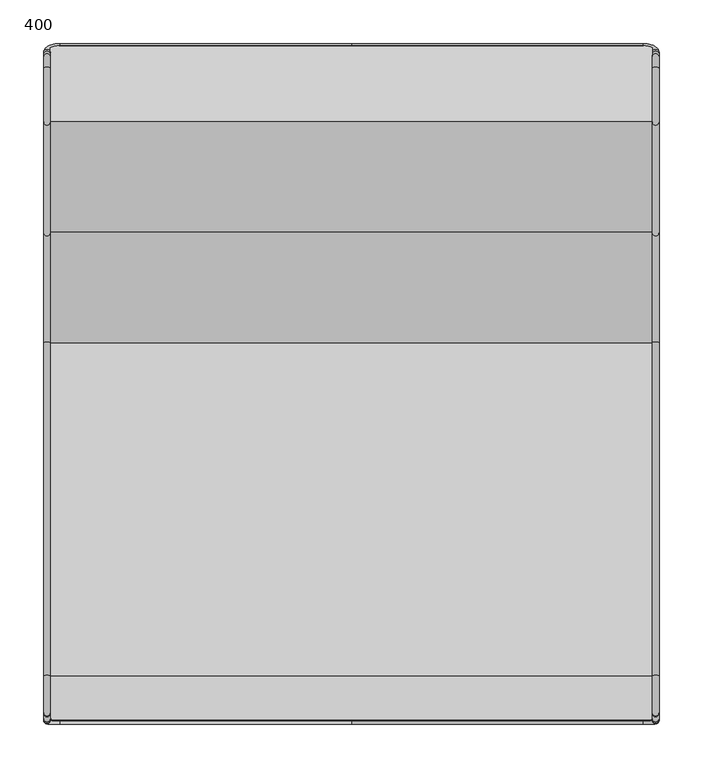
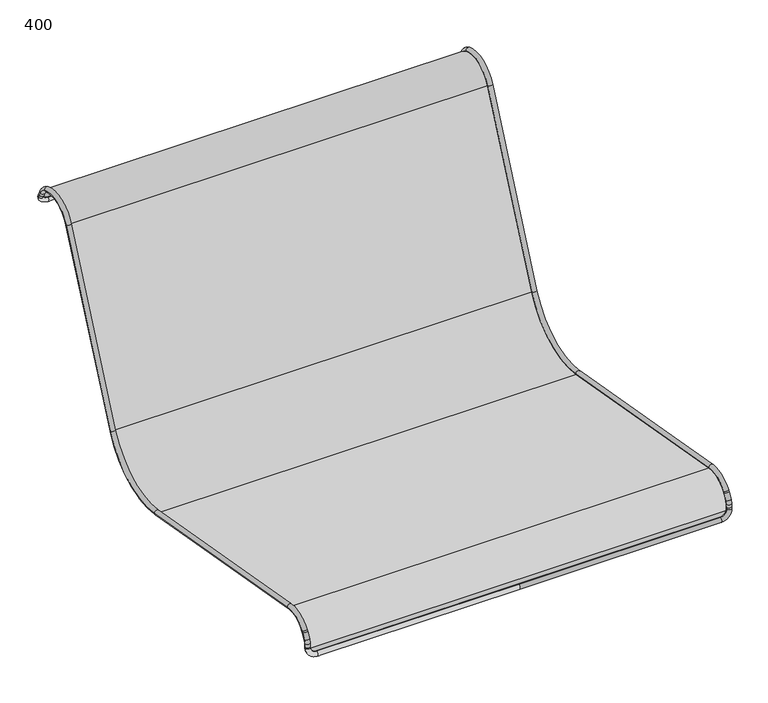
"""IFC4 building model written with IfcOpenShell, lengths in millimetres: furniture geometry, Vestre - Munch - 5166 : 400."""

from ifc_helpers import new_model, si_unit, point, frame, frame_2d, origin, place, context, project, spatial, polyline, circle_curve, ellipse_curve, trimmed, segment, composite_curve, outline, extrude, source, transform, mapped, element, save
from ifc_brep_helpers import cylinder_surface, revolved_surface, advanced_brep


def furniture_400_10252353(model_context):
    return source(origin(), model_context, "Body", "SolidModel", [
        advanced_brep(
        [(-353.440108, 373.7937013, 682.4780585), (-353.440108, 371.646043, 686.9933175), (-345.440108, 371.646043, 686.9933175), (-345.440108, 373.7937013, 682.4780585), (-345.440108, 296.4612266, 676.0749425), (-345.440108, 357.7572354, 700.2806419), (-353.440108, 357.7572354, 700.2806419), (-353.440108, 296.4612266, 676.0749425), (-353.440108, 169.6234197, 391.1925638), (-345.440108, 169.6234197, 391.1925638), (-353.440108, 43.6034187, 324.1865407), (-345.440108, 43.6034187, 324.1865407), (-353.440108, -338.739978, 391.6039975), (-345.440108, -338.739978, 391.6039975), (-353.440108, -381.5432629, 374.8006881), (-345.440108, -381.5432629, 374.8006881), (-345.440108, -382.9815742, 372.5487627), (-353.440108, -382.9815742, 372.5487627), (-353.440108, -388.067645, 362.9832548), (-345.440108, -388.067645, 362.9832548), (0.0, 384.102461, 660.8048152), (-334.440108, 384.102461, 660.8048152), (-334.440108, 380.6662078, 668.0292297), (0.0, 380.6662078, 668.0292297), (-345.440108, 375.9413596, 677.9627995), (-353.440108, 375.9413596, 677.9627995), (-345.440108, -389.6972432, 357.1071135), (-353.440108, -389.6972432, 357.1071135), (-353.440108, -389.9613935, 352.0668255), (-345.440108, -389.9613935, 352.0668255), (0.0, -391.0683935, 330.9440069), (-334.440108, -391.0683935, 330.9440069), (-334.440108, -390.6497059, 338.9330432), (0.0, -390.6497059, 338.9330432), (-345.440108, -390.0740104, 349.9179681), (-353.440108, -390.0740104, 349.9179681), (334.440108, -390.6497059, 338.9330432), (334.440108, -391.0683935, 330.9440069), (353.440108, -390.0740104, 349.9179681), (345.440108, -390.0740104, 349.9179681), (345.440108, -389.9613935, 352.0668255), (353.440108, -389.9613935, 352.0668255), (345.440108, 373.7937013, 682.4780585), (345.440108, 371.646043, 686.9933175), (353.440108, 371.646043, 686.9933175), (353.440108, 373.7937013, 682.4780585), (353.440108, 296.4612266, 676.0749425), (353.440108, 357.7572354, 700.2806419), (345.440108, 357.7572354, 700.2806419), (345.440108, 296.4612266, 676.0749425), (345.440108, 169.6234197, 391.1925638), (353.440108, 169.6234197, 391.1925638), (345.440108, 43.6034187, 324.1865407), (353.440108, 43.6034187, 324.1865407), (345.440108, -338.739978, 391.6039975), (353.440108, -338.739978, 391.6039975), (345.440108, -381.5432629, 374.8006881), (353.440108, -381.5432629, 374.8006881), (353.440108, -382.9815742, 372.5487627), (345.440108, -382.9815742, 372.5487627), (345.440108, -388.067645, 362.9832548), (353.440108, -388.067645, 362.9832548), (353.440108, -389.6972432, 357.1071135), (345.440108, -389.6972432, 357.1071135), (334.440108, 380.6662078, 668.0292297), (334.440108, 384.102461, 660.8048152), (353.440108, 375.9413596, 677.9627995), (345.440108, 375.9413596, 677.9627995)],
        [
            (0, 1),
            (1, 2, circle_curve(frame((-349.440108, 371.646043, 686.9933175), z_axis=(0.0, 0.4295316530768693, -0.9030518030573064), x_axis=(1.0, 0.0, 0.0)), 4.0)),
            (2, 3),
            (3, 0, circle_curve(frame((-349.440108, 373.7937013, 682.4780585), z_axis=(0.0, -0.4295316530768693, 0.9030518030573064), x_axis=(1.0, 0.0, 0.0)), 4.0)),
            (0, 3, circle_curve(frame((-349.440108, 373.7937013, 682.4780585), z_axis=(0.0, -0.4295316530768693, 0.9030518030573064), x_axis=(1.0, 0.0, 0.0)), 4.0)),
            (2, 1, circle_curve(frame((-349.440108, 371.646043, 686.9933175), z_axis=(0.0, 0.4295316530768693, -0.9030518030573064), x_axis=(1.0, 0.0, 0.0)), 4.0)),
            (4, 5, circle_curve(frame((-345.440108, 339.4462618, 656.9367718), z_axis=(-1.0, 0.0, 0.0), x_axis=(0.0, 0.38915652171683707, 0.9211716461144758)), 47.0529789)),
            (5, 6, circle_curve(frame((-349.440108, 357.7572354, 700.2806419), z_axis=(0.0, -0.9211716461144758, 0.38915652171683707), x_axis=(1.0, 0.0, 0.0)), 4.0)),
            (6, 7, circle_curve(frame((-353.440108, 339.4462618, 656.9367718), z_axis=(1.0, 0.0, 0.0), x_axis=(0.0, 0.38915652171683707, 0.9211716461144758)), 47.0529789)),
            (7, 4, circle_curve(frame((-349.440108, 296.4612266, 676.0749425), z_axis=(0.0, 0.406736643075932, 0.9135454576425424), x_axis=(1.0, 0.0, 0.0)), 4.0)),
            (4, 7, circle_curve(frame((-349.440108, 296.4612266, 676.0749425), z_axis=(0.0, 0.406736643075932, 0.9135454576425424), x_axis=(1.0, 0.0, 0.0)), 4.0)),
            (6, 5, circle_curve(frame((-349.440108, 357.7572354, 700.2806419), z_axis=(0.0, -0.9211716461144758, 0.38915652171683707), x_axis=(1.0, 0.0, 0.0)), 4.0)),
            (7, 8),
            (8, 9, circle_curve(frame((-349.440108, 169.6234197, 391.1925638), z_axis=(0.0, 0.4067366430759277, 0.9135454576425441), x_axis=(1.0, 0.0, 0.0)), 4.0)),
            (9, 4),
            (9, 8, circle_curve(frame((-349.440108, 169.6234197, 391.1925638), z_axis=(0.0, 0.4067366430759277, 0.9135454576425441), x_axis=(1.0, 0.0, 0.0)), 4.0)),
            (8, 10, circle_curve(frame((-353.440108, 63.7315199, 438.3386751), z_axis=(-1.0, 0.0, 0.0), x_axis=(0.0, 0.9135454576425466, -0.40673664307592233)), 115.9131151)),
            (10, 11, circle_curve(frame((-349.440108, 43.6034187, 324.1865407), z_axis=(0.0, 0.9848077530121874, -0.17364817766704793), x_axis=(1.0, 0.0, 0.0)), 4.0)),
            (11, 9, circle_curve(frame((-345.440108, 63.7315199, 438.3386751), z_axis=(1.0, 0.0, 0.0), x_axis=(0.0, 0.9135454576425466, -0.40673664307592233)), 115.9131151)),
            (11, 10, circle_curve(frame((-349.440108, 43.6034187, 324.1865407), z_axis=(0.0, 0.9848077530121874, -0.17364817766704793), x_axis=(1.0, 0.0, 0.0)), 4.0)),
            (10, 12),
            (12, 13, circle_curve(frame((-349.440108, -338.739978, 391.6039975), z_axis=(0.0, 0.9848077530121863, -0.17364817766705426), x_axis=(1.0, 0.0, 0.0)), 4.0)),
            (13, 11),
            (13, 12, circle_curve(frame((-349.440108, -338.739978, 391.6039975), z_axis=(0.0, 0.9848077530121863, -0.17364817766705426), x_axis=(1.0, 0.0, 0.0)), 4.0)),
            (12, 14, circle_curve(frame((-353.440108, -346.3955852, 348.1868914), z_axis=(1.0, 0.0, 0.0), x_axis=(0.0, 0.17364817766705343, 0.9848077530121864)), 44.0868849)),
            (14, 15, circle_curve(frame((-349.440108, -381.5432629, 374.8006881), z_axis=(0.0, 0.6036669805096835, 0.7972365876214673), x_axis=(1.0, 0.0, 0.0)), 4.0)),
            (15, 13, circle_curve(frame((-345.440108, -346.3955852, 348.1868914), z_axis=(-1.0, 0.0, 0.0), x_axis=(0.0, 0.17364817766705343, 0.9848077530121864)), 44.0868849)),
            (15, 14, circle_curve(frame((-349.440108, -381.5432629, 374.8006881), z_axis=(0.0, 0.6036669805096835, 0.7972365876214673), x_axis=(1.0, 0.0, 0.0)), 4.0)),
            (16, 17, circle_curve(frame((-349.440108, -382.9815742, 372.5487627), z_axis=(0.0, -0.46947156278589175, -0.8829475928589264), x_axis=(1.0, 0.0, 0.0)), 4.0)),
            (17, 18),
            (18, 19, circle_curve(frame((-349.440108, -388.067645, 362.9832548), z_axis=(0.0, 0.46947156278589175, 0.8829475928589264), x_axis=(1.0, 0.0, 0.0)), 4.0)),
            (19, 16),
            (17, 16, circle_curve(frame((-349.440108, -382.9815742, 372.5487627), z_axis=(0.0, -0.46947156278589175, -0.8829475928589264), x_axis=(1.0, 0.0, 0.0)), 4.0)),
            (19, 18, circle_curve(frame((-349.440108, -388.067645, 362.9832548), z_axis=(0.0, 0.46947156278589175, 0.8829475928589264), x_axis=(1.0, 0.0, 0.0)), 4.0)),
            (1, 6, circle_curve(frame((-353.440108, 347.239684, 675.3845663), z_axis=(1.0, 0.0, 0.0), x_axis=(0.0, 0.9030518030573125, 0.4295316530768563)), 27.0265327)),
            (5, 2, circle_curve(frame((-345.440108, 347.239684, 675.3845663), z_axis=(-1.0, 0.0, 0.0), x_axis=(0.0, 0.9030518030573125, 0.4295316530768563)), 27.0265327)),
            (20, 21),
            (21, 22, circle_curve(frame((-334.440108, 382.3843344, 664.4170225), z_axis=(1.0, 0.0, 0.0), x_axis=(0.0, -0.4295316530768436, 0.9030518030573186)), 4.0)),
            (22, 23),
            (23, 20, circle_curve(frame((0.0, 382.3843344, 664.4170225), z_axis=(-1.0, 0.0, 0.0), x_axis=(0.0, -0.4295316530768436, 0.9030518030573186)), 4.0)),
            (20, 23, circle_curve(frame((0.0, 382.3843344, 664.4170225), z_axis=(-1.0, 0.0, 0.0), x_axis=(0.0, -0.4295316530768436, 0.9030518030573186)), 4.0)),
            (22, 21, circle_curve(frame((-334.440108, 382.3843344, 664.4170225), z_axis=(1.0, 0.0, 0.0), x_axis=(0.0, -0.4295316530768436, 0.9030518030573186)), 4.0)),
            (24, 25, circle_curve(frame((-349.440108, 375.9413596, 677.9627995), z_axis=(0.0, -0.4295316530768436, 0.9030518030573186), x_axis=(1.0, 0.0, 0.0)), 4.0)),
            (25, 0),
            (3, 24),
            (25, 24, circle_curve(frame((-349.440108, 375.9413596, 677.9627995), z_axis=(0.0, -0.4295316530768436, 0.9030518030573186), x_axis=(1.0, 0.0, 0.0)), 4.0)),
            (21, 25, circle_curve(frame((-334.440108, 375.9413596, 677.9627995), z_axis=(0.0, 0.9030518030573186, 0.4295316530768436), x_axis=(0.0, 0.4295316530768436, -0.9030518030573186)), 19.0)),
            (24, 22, circle_curve(frame((-334.440108, 375.9413596, 677.9627995), z_axis=(0.0, -0.9030518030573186, -0.4295316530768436), x_axis=(0.0, 0.4295316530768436, -0.9030518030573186)), 11.0)),
            (14, 17, circle_curve(frame((-353.440108, -368.164883, 364.6705883), z_axis=(1.0, 0.0, 0.0), x_axis=(0.0, -0.7972365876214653, 0.6036669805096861)), 16.7809407)),
            (16, 15, circle_curve(frame((-345.440108, -368.164883, 364.6705883), z_axis=(-1.0, 0.0, 0.0), x_axis=(0.0, -0.7972365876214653, 0.6036669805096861)), 16.7809407)),
            (26, 27, circle_curve(frame((-349.440108, -389.6972432, 357.1071135), z_axis=(0.0, -0.05233595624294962, -0.9986295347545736), x_axis=(1.0, 0.0, 0.0)), 4.0)),
            (27, 28),
            (28, 29, circle_curve(frame((-349.440108, -389.9613935, 352.0668255), z_axis=(0.0, 0.05233595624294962, 0.9986295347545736), x_axis=(1.0, 0.0, 0.0)), 4.0)),
            (29, 26),
            (27, 26, circle_curve(frame((-349.440108, -389.6972432, 357.1071135), z_axis=(0.0, -0.05233595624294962, -0.9986295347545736), x_axis=(1.0, 0.0, 0.0)), 4.0)),
            (29, 28, circle_curve(frame((-349.440108, -389.9613935, 352.0668255), z_axis=(0.0, 0.05233595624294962, 0.9986295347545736), x_axis=(1.0, 0.0, 0.0)), 4.0)),
            (18, 27, circle_curve(frame((-353.440108, -375.6296639, 356.3698629), z_axis=(1.0, 0.0, 0.0), x_axis=(0.0, -0.8829475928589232, 0.46947156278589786)), 14.0868849)),
            (26, 19, circle_curve(frame((-345.440108, -375.6296639, 356.3698629), z_axis=(-1.0, 0.0, 0.0), x_axis=(0.0, -0.8829475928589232, 0.46947156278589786)), 14.0868849)),
            (30, 31),
            (31, 32, circle_curve(frame((-334.440108, -390.8590497, 334.938525), z_axis=(1.0, 0.0, 0.0), x_axis=(0.0, 0.052335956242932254, 0.9986295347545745)), 4.0)),
            (32, 33),
            (33, 30, circle_curve(frame((0.0, -390.8590497, 334.938525), z_axis=(-1.0, 0.0, 0.0), x_axis=(0.0, 0.052335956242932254, 0.9986295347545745)), 4.0)),
            (30, 33, circle_curve(frame((0.0, -390.8590497, 334.938525), z_axis=(-1.0, 0.0, 0.0), x_axis=(0.0, 0.052335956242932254, 0.9986295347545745)), 4.0)),
            (32, 31, circle_curve(frame((-334.440108, -390.8590497, 334.938525), z_axis=(1.0, 0.0, 0.0), x_axis=(0.0, 0.052335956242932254, 0.9986295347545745)), 4.0)),
            (34, 35, circle_curve(frame((-349.440108, -390.0740104, 349.9179681), z_axis=(0.0, 0.052335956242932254, 0.9986295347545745), x_axis=(1.0, 0.0, 0.0)), 4.0)),
            (35, 28),
            (29, 34),
            (35, 34, circle_curve(frame((-349.440108, -390.0740104, 349.9179681), z_axis=(0.0, 0.052335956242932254, 0.9986295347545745), x_axis=(1.0, 0.0, 0.0)), 4.0)),
            (31, 35, circle_curve(frame((-334.440108, -390.0740104, 349.9179681), z_axis=(0.0, 0.9986295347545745, -0.052335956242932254), x_axis=(0.0, -0.052335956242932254, -0.9986295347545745)), 19.0)),
            (34, 32, circle_curve(frame((-334.440108, -390.0740104, 349.9179681), z_axis=(0.0, -0.9986295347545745, 0.052335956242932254), x_axis=(0.0, -0.052335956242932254, -0.9986295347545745)), 11.0)),
            (33, 36),
            (36, 37, circle_curve(frame((334.440108, -390.8590497, 334.938525), z_axis=(-1.0, 0.0, 0.0), x_axis=(0.0, 0.052335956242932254, 0.9986295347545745)), 4.0)),
            (37, 30),
            (37, 36, circle_curve(frame((334.440108, -390.8590497, 334.938525), z_axis=(-1.0, 0.0, 0.0), x_axis=(0.0, 0.052335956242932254, 0.9986295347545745)), 4.0)),
            (38, 39, circle_curve(frame((349.440108, -390.0740104, 349.9179681), z_axis=(0.0, 0.052335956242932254, 0.9986295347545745), x_axis=(-1.0, 0.0, 0.0)), 4.0)),
            (39, 40),
            (40, 41, circle_curve(frame((349.440108, -389.9613935, 352.0668255), z_axis=(0.0, -0.052335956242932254, -0.9986295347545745), x_axis=(-1.0, 0.0, 0.0)), 4.0)),
            (41, 38),
            (39, 38, circle_curve(frame((349.440108, -390.0740104, 349.9179681), z_axis=(0.0, 0.052335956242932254, 0.9986295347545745), x_axis=(-1.0, 0.0, 0.0)), 4.0)),
            (41, 40, circle_curve(frame((349.440108, -389.9613935, 352.0668255), z_axis=(0.0, -0.052335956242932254, -0.9986295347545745), x_axis=(-1.0, 0.0, 0.0)), 4.0)),
            (36, 39, circle_curve(frame((334.440108, -390.0740104, 349.9179681), z_axis=(0.0, -0.9986295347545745, 0.052335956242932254), x_axis=(0.0, -0.052335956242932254, -0.9986295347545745)), 11.0)),
            (38, 37, circle_curve(frame((334.440108, -390.0740104, 349.9179681), z_axis=(0.0, 0.9986295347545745, -0.052335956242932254), x_axis=(0.0, -0.052335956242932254, -0.9986295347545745)), 19.0)),
            (42, 43),
            (43, 44, circle_curve(frame((349.440108, 371.646043, 686.9933175), z_axis=(0.0, 0.4295316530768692, -0.9030518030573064), x_axis=(-1.0, 0.0, 0.0)), 4.0)),
            (44, 45),
            (45, 42, circle_curve(frame((349.440108, 373.7937013, 682.4780585), z_axis=(0.0, -0.4295316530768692, 0.9030518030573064), x_axis=(-1.0, 0.0, 0.0)), 4.0)),
            (42, 45, circle_curve(frame((349.440108, 373.7937013, 682.4780585), z_axis=(0.0, -0.4295316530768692, 0.9030518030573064), x_axis=(-1.0, 0.0, 0.0)), 4.0)),
            (44, 43, circle_curve(frame((349.440108, 371.646043, 686.9933175), z_axis=(0.0, 0.4295316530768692, -0.9030518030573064), x_axis=(-1.0, 0.0, 0.0)), 4.0)),
            (46, 47, circle_curve(frame((353.440108, 339.4462618, 656.9367718), z_axis=(-1.0, 0.0, 0.0), x_axis=(0.0, 0.38915652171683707, 0.9211716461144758)), 47.0529789)),
            (47, 48, circle_curve(frame((349.440108, 357.7572354, 700.2806419), z_axis=(0.0, -0.9211716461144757, 0.3891565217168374), x_axis=(-1.0, 0.0, 0.0)), 4.0)),
            (48, 49, circle_curve(frame((345.440108, 339.4462618, 656.9367718), z_axis=(1.0, 0.0, 0.0), x_axis=(0.0, 0.38915652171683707, 0.9211716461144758)), 47.0529789)),
            (49, 46, circle_curve(frame((349.440108, 296.4612266, 676.0749425), z_axis=(0.0, 0.40673664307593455, 0.9135454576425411), x_axis=(-1.0, 0.0, 0.0)), 4.0)),
            (46, 49, circle_curve(frame((349.440108, 296.4612266, 676.0749425), z_axis=(0.0, 0.40673664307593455, 0.9135454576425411), x_axis=(-1.0, 0.0, 0.0)), 4.0)),
            (48, 47, circle_curve(frame((349.440108, 357.7572354, 700.2806419), z_axis=(0.0, -0.9211716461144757, 0.3891565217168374), x_axis=(-1.0, 0.0, 0.0)), 4.0)),
            (49, 50),
            (50, 51, circle_curve(frame((349.440108, 169.6234197, 391.1925638), z_axis=(0.0, 0.40673664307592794, 0.913545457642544), x_axis=(-1.0, 0.0, 0.0)), 4.0)),
            (51, 46),
            (51, 50, circle_curve(frame((349.440108, 169.6234197, 391.1925638), z_axis=(0.0, 0.40673664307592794, 0.913545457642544), x_axis=(-1.0, 0.0, 0.0)), 4.0)),
            (50, 52, circle_curve(frame((345.440108, 63.7315199, 438.3386751), z_axis=(-1.0, 0.0, 0.0), x_axis=(0.0, 0.9135454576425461, -0.40673664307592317)), 115.9131151)),
            (52, 53, circle_curve(frame((349.440108, 43.6034187, 324.1865407), z_axis=(0.0, 0.9848077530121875, -0.17364817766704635), x_axis=(-1.0, 0.0, 0.0)), 4.0)),
            (53, 51, circle_curve(frame((353.440108, 63.7315199, 438.3386751), z_axis=(1.0, 0.0, 0.0), x_axis=(0.0, 0.9135454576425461, -0.40673664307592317)), 115.9131151)),
            (53, 52, circle_curve(frame((349.440108, 43.6034187, 324.1865407), z_axis=(0.0, 0.9848077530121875, -0.17364817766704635), x_axis=(-1.0, 0.0, 0.0)), 4.0)),
            (52, 54),
            (54, 55, circle_curve(frame((349.440108, -338.739978, 391.6039975), z_axis=(0.0, 0.9848077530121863, -0.17364817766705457), x_axis=(-1.0, 0.0, 0.0)), 4.0)),
            (55, 53),
            (55, 54, circle_curve(frame((349.440108, -338.739978, 391.6039975), z_axis=(0.0, 0.9848077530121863, -0.17364817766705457), x_axis=(-1.0, 0.0, 0.0)), 4.0)),
            (54, 56, circle_curve(frame((345.440108, -346.3955852, 348.1868914), z_axis=(1.0, 0.0, 0.0), x_axis=(0.0, 0.17364817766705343, 0.9848077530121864)), 44.0868849)),
            (56, 57, circle_curve(frame((349.440108, -381.5432629, 374.8006881), z_axis=(0.0, 0.603666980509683, 0.7972365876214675), x_axis=(-1.0, 0.0, 0.0)), 4.0)),
            (57, 55, circle_curve(frame((353.440108, -346.3955852, 348.1868914), z_axis=(-1.0, 0.0, 0.0), x_axis=(0.0, 0.17364817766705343, 0.9848077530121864)), 44.0868849)),
            (57, 56, circle_curve(frame((349.440108, -381.5432629, 374.8006881), z_axis=(0.0, 0.603666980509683, 0.7972365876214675), x_axis=(-1.0, 0.0, 0.0)), 4.0)),
            (58, 59, circle_curve(frame((349.440108, -382.9815742, 372.5487627), z_axis=(0.0, -0.46947156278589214, -0.8829475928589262), x_axis=(-1.0, 0.0, 0.0)), 4.0)),
            (59, 60),
            (60, 61, circle_curve(frame((349.440108, -388.067645, 362.9832548), z_axis=(0.0, 0.46947156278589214, 0.8829475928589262), x_axis=(-1.0, 0.0, 0.0)), 4.0)),
            (61, 58),
            (59, 58, circle_curve(frame((349.440108, -382.9815742, 372.5487627), z_axis=(0.0, -0.46947156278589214, -0.8829475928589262), x_axis=(-1.0, 0.0, 0.0)), 4.0)),
            (61, 60, circle_curve(frame((349.440108, -388.067645, 362.9832548), z_axis=(0.0, 0.46947156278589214, 0.8829475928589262), x_axis=(-1.0, 0.0, 0.0)), 4.0)),
            (43, 48, circle_curve(frame((345.440108, 347.239684, 675.3845663), z_axis=(1.0, 0.0, 0.0), x_axis=(0.0, 0.9030518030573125, 0.4295316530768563)), 27.0265327)),
            (47, 44, circle_curve(frame((353.440108, 347.239684, 675.3845663), z_axis=(-1.0, 0.0, 0.0), x_axis=(0.0, 0.9030518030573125, 0.4295316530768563)), 27.0265327)),
            (56, 59, circle_curve(frame((345.440108, -368.164883, 364.6705883), z_axis=(1.0, 0.0, 0.0), x_axis=(0.0, -0.7972365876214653, 0.6036669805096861)), 16.7809407)),
            (58, 57, circle_curve(frame((353.440108, -368.164883, 364.6705883), z_axis=(-1.0, 0.0, 0.0), x_axis=(0.0, -0.7972365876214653, 0.6036669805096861)), 16.7809407)),
            (62, 63, circle_curve(frame((349.440108, -389.6972432, 357.1071135), z_axis=(0.0, -0.052335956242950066, -0.9986295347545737), x_axis=(-1.0, 0.0, 0.0)), 4.0)),
            (63, 40),
            (41, 62),
            (63, 62, circle_curve(frame((349.440108, -389.6972432, 357.1071135), z_axis=(0.0, -0.052335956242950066, -0.9986295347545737), x_axis=(-1.0, 0.0, 0.0)), 4.0)),
            (60, 63, circle_curve(frame((345.440108, -375.6296639, 356.3698629), z_axis=(1.0, 0.0, 0.0), x_axis=(0.0, -0.8829475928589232, 0.46947156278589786)), 14.0868849)),
            (62, 61, circle_curve(frame((353.440108, -375.6296639, 356.3698629), z_axis=(-1.0, 0.0, 0.0), x_axis=(0.0, -0.8829475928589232, 0.46947156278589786)), 14.0868849)),
            (23, 64),
            (64, 65, circle_curve(frame((334.440108, 382.3843344, 664.4170225), z_axis=(-1.0, 0.0, 0.0), x_axis=(0.0, -0.4295316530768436, 0.9030518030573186)), 4.0)),
            (65, 20),
            (65, 64, circle_curve(frame((334.440108, 382.3843344, 664.4170225), z_axis=(-1.0, 0.0, 0.0), x_axis=(0.0, -0.4295316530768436, 0.9030518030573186)), 4.0)),
            (66, 67, circle_curve(frame((349.440108, 375.9413596, 677.9627995), z_axis=(0.0, -0.4295316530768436, 0.9030518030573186), x_axis=(-1.0, 0.0, 0.0)), 4.0)),
            (67, 42),
            (45, 66),
            (67, 66, circle_curve(frame((349.440108, 375.9413596, 677.9627995), z_axis=(0.0, -0.4295316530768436, 0.9030518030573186), x_axis=(-1.0, 0.0, 0.0)), 4.0)),
            (64, 67, circle_curve(frame((334.440108, 375.9413596, 677.9627995), z_axis=(0.0, -0.9030518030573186, -0.4295316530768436), x_axis=(0.0, 0.4295316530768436, -0.9030518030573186)), 11.0)),
            (66, 65, circle_curve(frame((334.440108, 375.9413596, 677.9627995), z_axis=(0.0, 0.9030518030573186, 0.4295316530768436), x_axis=(0.0, 0.4295316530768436, -0.9030518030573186)), 19.0)),
        ],
        [
            cylinder_surface(frame((-349.440108, 373.7937013, 682.4780585), z_axis=(0.0, 0.4295316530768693, -0.9030518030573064), x_axis=(1.0, 0.0, 0.0)), 4.0),
            revolved_surface(trimmed(ellipse_curve(frame((-349.440108, 357.7572354, 700.2806419), z_axis=(0.0, 0.9211716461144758, -0.38915652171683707), x_axis=(1.0, 0.0, 0.0)), 4.0, 4.0), [point((-353.440108, 357.7572354, 700.2806419))], [point((-345.440108, 357.7572354, 700.2806419))], True, "CARTESIAN"), (0.0, 339.4462618, 656.9367718), (1.0, 0.0, 0.0)),
            revolved_surface(trimmed(ellipse_curve(frame((-349.440108, 357.7572354, 700.2806419), z_axis=(0.0, 0.9211716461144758, -0.38915652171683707), x_axis=(1.0, 0.0, 0.0)), 4.0, 4.0), [point((-345.440108, 357.7572354, 700.2806419))], [point((-353.440108, 357.7572354, 700.2806419))], True, "CARTESIAN"), (0.0, 339.4462618, 656.9367718), (1.0, 0.0, 0.0)),
            cylinder_surface(frame((-349.440108, 296.4612266, 676.0749425), z_axis=(0.0, 0.4067366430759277, 0.9135454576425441), x_axis=(1.0, 0.0, 0.0)), 4.0),
            revolved_surface(trimmed(ellipse_curve(frame((-349.440108, 169.6234197, 391.1925638), z_axis=(0.0, 0.40673664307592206, 0.9135454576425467), x_axis=(1.0, 0.0, 0.0)), 4.0, 4.0), [point((-353.440108, 169.6234197, 391.1925638))], [point((-345.440108, 169.6234197, 391.1925638))], True, "CARTESIAN"), (0.0, 63.7315199, 438.3386751), (-1.0, 0.0, 0.0)),
            revolved_surface(trimmed(ellipse_curve(frame((-349.440108, 169.6234197, 391.1925638), z_axis=(0.0, 0.40673664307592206, 0.9135454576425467), x_axis=(1.0, 0.0, 0.0)), 4.0, 4.0), [point((-345.440108, 169.6234197, 391.1925638))], [point((-353.440108, 169.6234197, 391.1925638))], True, "CARTESIAN"), (0.0, 63.7315199, 438.3386751), (-1.0, 0.0, 0.0)),
            cylinder_surface(frame((-349.440108, 43.6034187, 324.1865407), z_axis=(0.0, 0.9848077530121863, -0.17364817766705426), x_axis=(1.0, 0.0, 0.0)), 4.0),
            revolved_surface(trimmed(ellipse_curve(frame((-349.440108, -338.739978, 391.6039975), z_axis=(0.0, 0.9848077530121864, -0.17364817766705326), x_axis=(1.0, 0.0, 0.0)), 4.0, 4.0), [point((-353.440108, -338.739978, 391.6039975))], [point((-345.440108, -338.739978, 391.6039975))], True, "CARTESIAN"), (0.0, -346.3955852, 348.1868914), (1.0, 0.0, 0.0)),
            revolved_surface(trimmed(ellipse_curve(frame((-349.440108, -338.739978, 391.6039975), z_axis=(0.0, 0.9848077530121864, -0.17364817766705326), x_axis=(1.0, 0.0, 0.0)), 4.0, 4.0), [point((-345.440108, -338.739978, 391.6039975))], [point((-353.440108, -338.739978, 391.6039975))], True, "CARTESIAN"), (0.0, -346.3955852, 348.1868914), (1.0, 0.0, 0.0)),
            cylinder_surface(frame((-349.440108, -382.9815742, 372.5487627), z_axis=(0.0, 0.46947156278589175, 0.8829475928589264), x_axis=(1.0, 0.0, 0.0)), 4.0),
            revolved_surface(trimmed(ellipse_curve(frame((-349.440108, 371.646043, 686.9933175), z_axis=(0.0, 0.4295316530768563, -0.9030518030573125), x_axis=(1.0, 0.0, 0.0)), 4.0, 4.0), [point((-353.440108, 371.646043, 686.9933175))], [point((-345.440108, 371.646043, 686.9933175))], True, "CARTESIAN"), (0.0, 347.239684, 675.3845663), (1.0, 0.0, 0.0)),
            revolved_surface(trimmed(ellipse_curve(frame((-349.440108, 371.646043, 686.9933175), z_axis=(0.0, 0.4295316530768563, -0.9030518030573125), x_axis=(1.0, 0.0, 0.0)), 4.0, 4.0), [point((-345.440108, 371.646043, 686.9933175))], [point((-353.440108, 371.646043, 686.9933175))], True, "CARTESIAN"), (0.0, 347.239684, 675.3845663), (1.0, 0.0, 0.0)),
            cylinder_surface(frame((0.0, 382.3843344, 664.4170225), z_axis=(1.0, 0.0, 0.0), x_axis=(0.0, -0.4295316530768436, 0.9030518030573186)), 4.0),
            cylinder_surface(frame((-349.440108, 375.9413596, 677.9627995), z_axis=(0.0, 0.4295316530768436, -0.9030518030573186), x_axis=(1.0, 0.0, 0.0)), 4.0),
            revolved_surface(trimmed(ellipse_curve(frame((-334.440108, 382.3843344, 664.4170225), z_axis=(1.0, 0.0, 0.0), x_axis=(0.0, -0.4295316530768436, 0.9030518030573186)), 4.0, 4.0), [point((-334.440108, 384.102461, 660.8048152))], [point((-334.440108, 380.6662078, 668.0292297))], True, "CARTESIAN"), (-334.440108, -297.7152046, 357.5417377), (0.0, 0.9030518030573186, 0.4295316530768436)),
            revolved_surface(trimmed(ellipse_curve(frame((-334.440108, 382.3843344, 664.4170225), z_axis=(1.0, 0.0, 0.0), x_axis=(0.0, -0.4295316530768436, 0.9030518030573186)), 4.0, 4.0), [point((-334.440108, 380.6662078, 668.0292297))], [point((-334.440108, 384.102461, 660.8048152))], True, "CARTESIAN"), (-334.440108, -297.7152046, 357.5417377), (0.0, 0.9030518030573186, 0.4295316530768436)),
            revolved_surface(trimmed(ellipse_curve(frame((-349.440108, -381.5432629, 374.8006881), z_axis=(0.0, 0.6036669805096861, 0.7972365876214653), x_axis=(1.0, 0.0, 0.0)), 4.0, 4.0), [point((-353.440108, -381.5432629, 374.8006881))], [point((-345.440108, -381.5432629, 374.8006881))], True, "CARTESIAN"), (0.0, -368.164883, 364.6705883), (1.0, 0.0, 0.0)),
            revolved_surface(trimmed(ellipse_curve(frame((-349.440108, -381.5432629, 374.8006881), z_axis=(0.0, 0.6036669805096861, 0.7972365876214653), x_axis=(1.0, 0.0, 0.0)), 4.0, 4.0), [point((-345.440108, -381.5432629, 374.8006881))], [point((-353.440108, -381.5432629, 374.8006881))], True, "CARTESIAN"), (0.0, -368.164883, 364.6705883), (1.0, 0.0, 0.0)),
            cylinder_surface(frame((-349.440108, -389.6972432, 357.1071135), z_axis=(0.0, 0.05233595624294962, 0.9986295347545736), x_axis=(1.0, 0.0, 0.0)), 4.0),
            revolved_surface(trimmed(ellipse_curve(frame((-349.440108, -388.067645, 362.9832548), z_axis=(0.0, 0.46947156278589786, 0.8829475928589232), x_axis=(1.0, 0.0, 0.0)), 4.0, 4.0), [point((-353.440108, -388.067645, 362.9832548))], [point((-345.440108, -388.067645, 362.9832548))], True, "CARTESIAN"), (0.0, -375.6296639, 356.3698629), (1.0, 0.0, 0.0)),
            revolved_surface(trimmed(ellipse_curve(frame((-349.440108, -388.067645, 362.9832548), z_axis=(0.0, 0.46947156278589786, 0.8829475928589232), x_axis=(1.0, 0.0, 0.0)), 4.0, 4.0), [point((-345.440108, -388.067645, 362.9832548))], [point((-353.440108, -388.067645, 362.9832548))], True, "CARTESIAN"), (0.0, -375.6296639, 356.3698629), (1.0, 0.0, 0.0)),
            cylinder_surface(frame((0.0, -390.8590497, 334.938525), z_axis=(1.0, 0.0, 0.0), x_axis=(0.0, 0.052335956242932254, 0.9986295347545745)), 4.0),
            cylinder_surface(frame((-349.440108, -390.0740104, 349.9179681), z_axis=(0.0, -0.052335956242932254, -0.9986295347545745), x_axis=(1.0, 0.0, 0.0)), 4.0),
            revolved_surface(trimmed(ellipse_curve(frame((-334.440108, -390.8590497, 334.938525), z_axis=(1.0, 0.0, 0.0), x_axis=(0.0, 0.052335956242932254, 0.9986295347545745)), 4.0, 4.0), [point((-334.440108, -391.0683935, 330.9440069))], [point((-334.440108, -390.6497059, 338.9330432))], True, "CARTESIAN"), (-334.440108, -1135.0294371, 388.9594276), (0.0, 0.9986295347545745, -0.052335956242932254)),
            revolved_surface(trimmed(ellipse_curve(frame((-334.440108, -390.8590497, 334.938525), z_axis=(1.0, 0.0, 0.0), x_axis=(0.0, 0.052335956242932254, 0.9986295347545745)), 4.0, 4.0), [point((-334.440108, -390.6497059, 338.9330432))], [point((-334.440108, -391.0683935, 330.9440069))], True, "CARTESIAN"), (-334.440108, -1135.0294371, 388.9594276), (0.0, 0.9986295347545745, -0.052335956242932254)),
            cylinder_surface(frame((0.0, -390.8590497, 334.938525), z_axis=(-1.0, 0.0, 0.0), x_axis=(0.0, 0.052335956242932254, 0.9986295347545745)), 4.0),
            cylinder_surface(frame((349.440108, -390.0740104, 349.9179681), z_axis=(0.0, -0.052335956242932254, -0.9986295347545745), x_axis=(-1.0, 0.0, 0.0)), 4.0),
            revolved_surface(trimmed(ellipse_curve(frame((334.440108, -390.8590497, 334.938525), z_axis=(-1.0, 0.0, 0.0), x_axis=(0.0, 0.052335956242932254, 0.9986295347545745)), 4.0, 4.0), [point((334.440108, -390.6497059, 338.9330432))], [point((334.440108, -391.0683935, 330.9440069))], True, "CARTESIAN"), (334.440108, -1135.0294371, 388.9594276), (0.0, -0.9986295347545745, 0.052335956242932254)),
            revolved_surface(trimmed(ellipse_curve(frame((334.440108, -390.8590497, 334.938525), z_axis=(-1.0, 0.0, 0.0), x_axis=(0.0, 0.052335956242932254, 0.9986295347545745)), 4.0, 4.0), [point((334.440108, -391.0683935, 330.9440069))], [point((334.440108, -390.6497059, 338.9330432))], True, "CARTESIAN"), (334.440108, -1135.0294371, 388.9594276), (0.0, -0.9986295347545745, 0.052335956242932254)),
            cylinder_surface(frame((349.440108, 373.7937013, 682.4780585), z_axis=(0.0, 0.4295316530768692, -0.9030518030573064), x_axis=(-1.0, 0.0, 0.0)), 4.0),
            revolved_surface(trimmed(ellipse_curve(frame((349.440108, 357.7572354, 700.2806419), z_axis=(0.0, 0.9211716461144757, -0.3891565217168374), x_axis=(-1.0, 0.0, 0.0)), 4.0, 4.0), [point((345.440108, 357.7572354, 700.2806419))], [point((353.440108, 357.7572354, 700.2806419))], True, "CARTESIAN"), (0.0, 339.4462618, 656.9367718), (1.0, 0.0, 0.0)),
            revolved_surface(trimmed(ellipse_curve(frame((349.440108, 357.7572354, 700.2806419), z_axis=(0.0, 0.9211716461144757, -0.3891565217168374), x_axis=(-1.0, 0.0, 0.0)), 4.0, 4.0), [point((353.440108, 357.7572354, 700.2806419))], [point((345.440108, 357.7572354, 700.2806419))], True, "CARTESIAN"), (0.0, 339.4462618, 656.9367718), (1.0, 0.0, 0.0)),
            cylinder_surface(frame((349.440108, 296.4612266, 676.0749425), z_axis=(0.0, 0.40673664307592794, 0.913545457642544), x_axis=(-1.0, 0.0, 0.0)), 4.0),
            revolved_surface(trimmed(ellipse_curve(frame((349.440108, 169.6234197, 391.1925638), z_axis=(0.0, 0.4067366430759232, 0.9135454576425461), x_axis=(-1.0, 0.0, 0.0)), 4.0, 4.0), [point((345.440108, 169.6234197, 391.1925638))], [point((353.440108, 169.6234197, 391.1925638))], True, "CARTESIAN"), (0.0, 63.7315199, 438.3386751), (-1.0, 0.0, 0.0)),
            revolved_surface(trimmed(ellipse_curve(frame((349.440108, 169.6234197, 391.1925638), z_axis=(0.0, 0.4067366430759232, 0.9135454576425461), x_axis=(-1.0, 0.0, 0.0)), 4.0, 4.0), [point((353.440108, 169.6234197, 391.1925638))], [point((345.440108, 169.6234197, 391.1925638))], True, "CARTESIAN"), (0.0, 63.7315199, 438.3386751), (-1.0, 0.0, 0.0)),
            cylinder_surface(frame((349.440108, 43.6034187, 324.1865407), z_axis=(0.0, 0.9848077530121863, -0.17364817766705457), x_axis=(-1.0, 0.0, 0.0)), 4.0),
            revolved_surface(trimmed(ellipse_curve(frame((349.440108, -338.739978, 391.6039975), z_axis=(0.0, 0.9848077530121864, -0.17364817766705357), x_axis=(-1.0, 0.0, 0.0)), 4.0, 4.0), [point((345.440108, -338.739978, 391.6039975))], [point((353.440108, -338.739978, 391.6039975))], True, "CARTESIAN"), (0.0, -346.3955852, 348.1868914), (1.0, 0.0, 0.0)),
            revolved_surface(trimmed(ellipse_curve(frame((349.440108, -338.739978, 391.6039975), z_axis=(0.0, 0.9848077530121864, -0.17364817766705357), x_axis=(-1.0, 0.0, 0.0)), 4.0, 4.0), [point((353.440108, -338.739978, 391.6039975))], [point((345.440108, -338.739978, 391.6039975))], True, "CARTESIAN"), (0.0, -346.3955852, 348.1868914), (1.0, 0.0, 0.0)),
            cylinder_surface(frame((349.440108, -382.9815742, 372.5487627), z_axis=(0.0, 0.46947156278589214, 0.8829475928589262), x_axis=(-1.0, 0.0, 0.0)), 4.0),
            revolved_surface(trimmed(ellipse_curve(frame((349.440108, 371.646043, 686.9933175), z_axis=(0.0, 0.4295316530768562, -0.9030518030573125), x_axis=(-1.0, 0.0, 0.0)), 4.0, 4.0), [point((345.440108, 371.646043, 686.9933175))], [point((353.440108, 371.646043, 686.9933175))], True, "CARTESIAN"), (0.0, 347.239684, 675.3845663), (1.0, 0.0, 0.0)),
            revolved_surface(trimmed(ellipse_curve(frame((349.440108, 371.646043, 686.9933175), z_axis=(0.0, 0.4295316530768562, -0.9030518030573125), x_axis=(-1.0, 0.0, 0.0)), 4.0, 4.0), [point((353.440108, 371.646043, 686.9933175))], [point((345.440108, 371.646043, 686.9933175))], True, "CARTESIAN"), (0.0, 347.239684, 675.3845663), (1.0, 0.0, 0.0)),
            revolved_surface(trimmed(ellipse_curve(frame((349.440108, -381.5432629, 374.8006881), z_axis=(0.0, 0.6036669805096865, 0.7972365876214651), x_axis=(-1.0, 0.0, 0.0)), 4.0, 4.0), [point((345.440108, -381.5432629, 374.8006881))], [point((353.440108, -381.5432629, 374.8006881))], True, "CARTESIAN"), (0.0, -368.164883, 364.6705883), (1.0, 0.0, 0.0)),
            revolved_surface(trimmed(ellipse_curve(frame((349.440108, -381.5432629, 374.8006881), z_axis=(0.0, 0.6036669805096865, 0.7972365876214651), x_axis=(-1.0, 0.0, 0.0)), 4.0, 4.0), [point((353.440108, -381.5432629, 374.8006881))], [point((345.440108, -381.5432629, 374.8006881))], True, "CARTESIAN"), (0.0, -368.164883, 364.6705883), (1.0, 0.0, 0.0)),
            cylinder_surface(frame((349.440108, -389.6972432, 357.1071135), z_axis=(0.0, 0.052335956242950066, 0.9986295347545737), x_axis=(-1.0, 0.0, 0.0)), 4.0),
            revolved_surface(trimmed(ellipse_curve(frame((349.440108, -388.067645, 362.9832548), z_axis=(0.0, 0.46947156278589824, 0.882947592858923), x_axis=(-1.0, 0.0, 0.0)), 4.0, 4.0), [point((345.440108, -388.067645, 362.9832548))], [point((353.440108, -388.067645, 362.9832548))], True, "CARTESIAN"), (0.0, -375.6296639, 356.3698629), (1.0, 0.0, 0.0)),
            revolved_surface(trimmed(ellipse_curve(frame((349.440108, -388.067645, 362.9832548), z_axis=(0.0, 0.46947156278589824, 0.882947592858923), x_axis=(-1.0, 0.0, 0.0)), 4.0, 4.0), [point((353.440108, -388.067645, 362.9832548))], [point((345.440108, -388.067645, 362.9832548))], True, "CARTESIAN"), (0.0, -375.6296639, 356.3698629), (1.0, 0.0, 0.0)),
            cylinder_surface(frame((0.0, 382.3843344, 664.4170225), z_axis=(-1.0, 0.0, 0.0), x_axis=(0.0, -0.4295316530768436, 0.9030518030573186)), 4.0),
            cylinder_surface(frame((349.440108, 375.9413596, 677.9627995), z_axis=(0.0, 0.4295316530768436, -0.9030518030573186), x_axis=(-1.0, 0.0, 0.0)), 4.0),
            revolved_surface(trimmed(ellipse_curve(frame((334.440108, 382.3843344, 664.4170225), z_axis=(-1.0, 0.0, 0.0), x_axis=(0.0, -0.4295316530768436, 0.9030518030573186)), 4.0, 4.0), [point((334.440108, 380.6662078, 668.0292297))], [point((334.440108, 384.102461, 660.8048152))], True, "CARTESIAN"), (334.440108, -297.7152046, 357.5417377), (0.0, -0.9030518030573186, -0.4295316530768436)),
            revolved_surface(trimmed(ellipse_curve(frame((334.440108, 382.3843344, 664.4170225), z_axis=(-1.0, 0.0, 0.0), x_axis=(0.0, -0.4295316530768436, 0.9030518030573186)), 4.0, 4.0), [point((334.440108, 384.102461, 660.8048152))], [point((334.440108, 380.6662078, 668.0292297))], True, "CARTESIAN"), (334.440108, -297.7152046, 357.5417377), (0.0, -0.9030518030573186, -0.4295316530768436)),
        ],
        [
            (0, [[1, 2, 3, 4]]),
            (0, [[-1, 5, -3, 6]]),
            (1, [[7, 8, 9, 10]]),
            (2, [[-7, 11, -9, 12]]),
            (3, [[-10, 13, 14, 15]]),
            (3, [[-11, -15, 16, -13]]),
            (4, [[-14, 17, 18, 19]]),
            (5, [[-16, -19, 20, -17]]),
            (6, [[-18, 21, 22, 23]]),
            (6, [[-20, -23, 24, -21]]),
            (7, [[-22, 25, 26, 27]]),
            (8, [[-24, -27, 28, -25]]),
            (9, [[29, 30, 31, 32]]),
            (9, [[-30, 33, -32, 34]]),
            (10, [[-2, 35, -8, 36]]),
            (11, [[-6, -36, -12, -35]]),
            (12, [[37, 38, 39, 40]]),
            (12, [[-37, 41, -39, 42]]),
            (13, [[43, 44, -4, 45]]),
            (13, [[-44, 46, -45, -5]]),
            (14, [[-38, 47, -43, 48]]),
            (15, [[-42, -48, -46, -47]]),
            (16, [[-26, 49, -29, 50]]),
            (17, [[-28, -50, -33, -49]]),
            (18, [[51, 52, 53, 54]]),
            (18, [[-52, 55, -54, 56]]),
            (19, [[-31, 57, -51, 58]]),
            (20, [[-34, -58, -55, -57]]),
            (21, [[59, 60, 61, 62]]),
            (21, [[-59, 63, -61, 64]]),
            (22, [[65, 66, -56, 67]]),
            (22, [[-66, 68, -67, -53]]),
            (23, [[-60, 69, -65, 70]]),
            (24, [[-64, -70, -68, -69]]),
            (25, [[71, 72, 73, -62]]),
            (25, [[-71, -63, -73, 74]]),
            (26, [[75, 76, 77, 78]]),
            (26, [[-76, 79, -78, 80]]),
            (27, [[-72, 81, -75, 82]]),
            (28, [[-74, -82, -79, -81]]),
            (29, [[83, 84, 85, 86]]),
            (29, [[-83, 87, -85, 88]]),
            (30, [[89, 90, 91, 92]]),
            (31, [[-89, 93, -91, 94]]),
            (32, [[-92, 95, 96, 97]]),
            (32, [[-93, -97, 98, -95]]),
            (33, [[-96, 99, 100, 101]]),
            (34, [[-98, -101, 102, -99]]),
            (35, [[-100, 103, 104, 105]]),
            (35, [[-102, -105, 106, -103]]),
            (36, [[-104, 107, 108, 109]]),
            (37, [[-106, -109, 110, -107]]),
            (38, [[111, 112, 113, 114]]),
            (38, [[-112, 115, -114, 116]]),
            (39, [[-84, 117, -90, 118]]),
            (40, [[-88, -118, -94, -117]]),
            (41, [[-108, 119, -111, 120]]),
            (42, [[-110, -120, -115, -119]]),
            (43, [[121, 122, -80, 123]]),
            (43, [[-122, 124, -123, -77]]),
            (44, [[-113, 125, -121, 126]]),
            (45, [[-116, -126, -124, -125]]),
            (46, [[127, 128, 129, -40]]),
            (46, [[-127, -41, -129, 130]]),
            (47, [[131, 132, -86, 133]]),
            (47, [[-132, 134, -133, -87]]),
            (48, [[-128, 135, -131, 136]]),
            (49, [[-130, -136, -134, -135]]),
        ],
    ),
        extrude(outline(composite_curve([segment(polyline([(42.8937386, 320.1617448), (-339.4496581, 387.5792015)]), True, "CONTINUOUS"), segment(trimmed(circle_curve(frame_2d((-346.3955852, 348.1868914)), 40.0), [point((-339.4496581, 387.5792015))], [point((-386.3712183, 346.7909115))], True, "CARTESIAN"), True, "CONTINUOUS"), segment(polyline([(-386.3712183, 346.7909115), (-386.050511, 337.6070561), (-389.0523396, 337.6070561), (-389.3693908, 346.686213)]), True, "CONTINUOUS"), segment(trimmed(circle_curve(frame_2d((-346.3955852, 348.1868914)), 43.0), [point((-389.3693908, 346.686213))], [point((-338.9287136, 390.5336248))], False, "CARTESIAN"), True, "CONTINUOUS"), segment(polyline([(-338.9287136, 390.5336248), (43.4146832, 323.116168)]), True, "CONTINUOUS"), segment(trimmed(circle_curve(frame_2d((63.7315199, 438.3386751)), 117.0), [point((43.4146832, 323.116168))], [point((170.6163385, 390.7504879))], True, "CARTESIAN"), True, "CONTINUOUS"), segment(polyline([(170.6163385, 390.7504879), (297.4541454, 675.6328666)]), True, "CONTINUOUS"), segment(trimmed(circle_curve(frame_2d((339.4462618, 656.9367718)), 45.966094), [point((297.4541454, 675.6328666))], [point((383.6317073, 669.6067444))], False, "CARTESIAN"), True, "CONTINUOUS"), segment(polyline([(383.6317073, 669.6067444), (384.3964859, 666.9396443), (381.5127009, 666.1127322), (380.7479222, 668.7798324)]), True, "CONTINUOUS"), segment(trimmed(circle_curve(frame_2d((339.4462618, 656.9367718)), 42.966094), [point((380.7479222, 668.7798324))], [point((300.1947818, 674.4126567))], True, "CARTESIAN"), True, "CONTINUOUS"), segment(polyline([(300.1947818, 674.4126567), (173.3569749, 389.530278)]), True, "CONTINUOUS"), segment(trimmed(circle_curve(frame_2d((63.7315199, 438.3386751)), 120.0), [point((173.3569749, 389.530278))], [point((42.8937386, 320.1617448))], False, "CARTESIAN"), True, "CONTINUOUS")], self_intersect=False)), frame((-345.5282958, 0.0, 0.0), z_axis=(1.0, 0.0, 0.0), x_axis=(0.0, 1.0, 0.0)), (0.0, 0.0, 1.0), 690.9717552),
    ])


if __name__ == "__main__":
    model = new_model("IFC4")
    model_context = context("Model", 3, world=origin())
    ifc_project = project(units=[si_unit("LENGTHUNIT", "METRE", prefix="MILLI")], contexts=[model_context])
    site = spatial("IfcSite", under=ifc_project)
    building = spatial("IfcBuilding", under=site)
    placement = place(None, origin())
    furniture_400_shape = furniture_400_10252353(model_context)
    element("IfcFurniture", 1, ObjectType="Vestre - Munch - 5166 : 400", at=placement, inside=building, context=model_context, shape_type="MappedRepresentation", body=[
        mapped(furniture_400_shape, transform((0.0, 0.0, 0.0), x_axis=(1.0, 0.0, 0.0), y_axis=(0.0, 1.0, 0.0), z_axis=(0.0, 0.0, 1.0))),
    ])
    save(model, "model.ifc")
